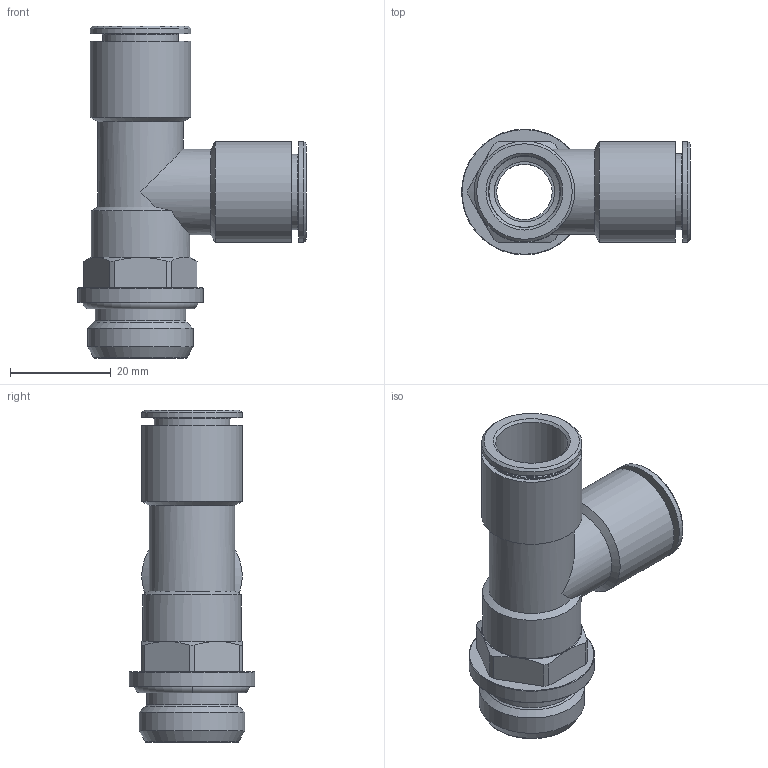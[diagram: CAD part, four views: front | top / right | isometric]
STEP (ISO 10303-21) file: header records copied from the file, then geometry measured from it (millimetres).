
FILE_DESCRIPTION(('Bauteilbeschreibung','HiCAD-Model','HiCAD-STEP-TRANSLATION','Bauteilbeschreibung'),'2;1');
FILE_NAME('B:/ABGLEICH/ZEICHNUNGEN/STEP FÜR INTERNET/STEP/IPSO 021/202112_IPSO_021_14_1-2.STP','2012-02-28T09:57:19+00:00',('Konstrukteur'),('Konstrukteur Firma GmbH'),' HiCAD neXt 2008, Step 3.1.1401.2J ','HiCAD neXt 2008','confidential');
FILE_SCHEMA(('AUTOMOTIVE_DESIGN { 1 2 10303 214 0 1 1 1 }'));
Length unit declared in the file: millimetre
Products named in the file (8): A02112_IPSO_021_14_1_2; OR 17_12X2_62; R202112; A14608_GEW__12_1_2; A146080GEW00120102; G 1_2; DR14_5; DR1405
Assembly tree (7 placements, depth 3):
  A02112_IPSO_021_14_1_2
    OR 17_12X2_62
    R202112
    A14608_GEW__12_1_2
    A146080GEW00120102
      G 1_2
    DR14_5
    DR1405
Bounding box: 45.5 x 25 x 66 mm (x, y, z)
Volume: 11927.4 mm3; surface area: 15861.9 mm2
Topology: 6 solids, 6 shells, 126 faces, 269 edges, 161 vertices
Faces by surface type: cylinder 44, cone 40, plane 27, torus 14, sphere 1
Full cylindrical faces by diameter (mm): 11 x1, 12 x2, 14.15 x2, 14.3 x2, 14.5 x1, 15.1 x2, 15.2 x2, 15.8 x2, 16.2 x2, 16.5 x2, 17 x4, 17.3 x2, 18 x1, 18.1 x2, 18.631 x2, 19.6 x1, 20 x4, 20.955 x1, 25 x1
Entity records: 4548 total; most frequent: CARTESIAN_POINT 1215, DIRECTION 560, ORIENTED_EDGE 342, AXIS2_PLACEMENT_3D 270, EDGE_LOOP 224, EDGE_CURVE 171, COLOUR_RGB 161, PRESENTATION_STYLE_ASSIGNMENT 161
